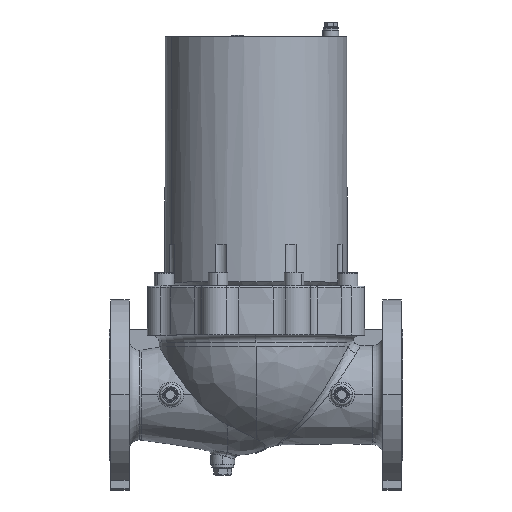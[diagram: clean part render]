
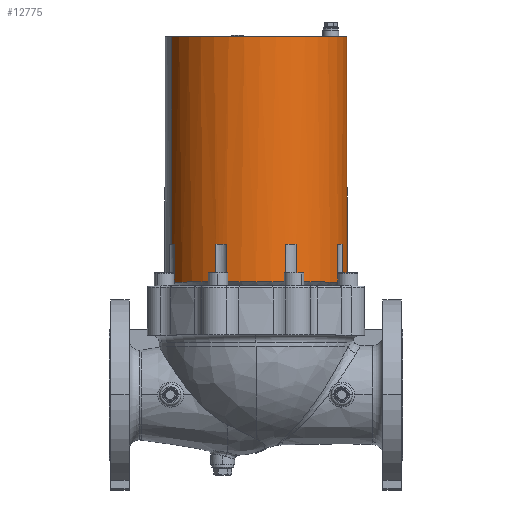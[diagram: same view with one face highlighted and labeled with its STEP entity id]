
A CAD part, top view. The second image highlights one B-rep face of the part: STEP entity #12775.
In plain terms, the highlighted cylindrical face has radius 109.55 mm (diameter 219.1 mm), a partial arc.
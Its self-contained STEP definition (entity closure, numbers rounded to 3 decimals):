
#1843=CARTESIAN_POINT('',(0.,184.285,
0.));
#1844=DIRECTION('',(0.,1.,0.));
#1845=DIRECTION('',(0.946,0.,-0.324));
#1846=AXIS2_PLACEMENT_3D('',#1843,#1844,#1845);
#1848=DIRECTION('',(0.,1.,0.));
#1849=VECTOR('',#1848,45.2);
#1850=CARTESIAN_POINT('',(103.653,139.085,-35.458));
#1851=LINE('',#1850,#1849);
#1852=CARTESIAN_POINT('',(0.,139.085,
0.));
#1853=DIRECTION('',(0.,-1.,0.));
#1854=DIRECTION('',(0.946,0.,-0.324));
#1855=AXIS2_PLACEMENT_3D('',#1852,#1853,#1854);
#1857=DIRECTION('',(0.,1.,0.));
#1858=VECTOR('',#1857,45.2);
#1859=CARTESIAN_POINT('',(103.653,139.085,35.458));
#1860=LINE('',#1859,#1858);
#1861=CARTESIAN_POINT('',(0.,184.285,
0.));
#1862=DIRECTION('',(0.,1.,0.));
#1863=DIRECTION('',(0.898,0.,0.44));
#1864=AXIS2_PLACEMENT_3D('',#1861,#1862,#1863);
#1866=DIRECTION('',(0.,1.,0.));
#1867=VECTOR('',#1866,45.2);
#1868=CARTESIAN_POINT('',(98.366,139.085,48.221));
#1869=LINE('',#1868,#1867);
#1870=CARTESIAN_POINT('',(0.,139.085,
0.));
#1871=DIRECTION('',(0.,-1.,0.));
#1872=DIRECTION('',(0.898,0.,0.44));
#1873=AXIS2_PLACEMENT_3D('',#1870,#1871,#1872);
#1875=DIRECTION('',(0.,1.,0.));
#1876=VECTOR('',#1875,45.2);
#1877=CARTESIAN_POINT('',(48.221,139.085,98.366));
#1878=LINE('',#1877,#1876);
#1879=CARTESIAN_POINT('',(0.,184.285,
0.));
#1880=DIRECTION('',(0.,1.,0.));
#1881=DIRECTION('',(0.324,0.,0.946));
#1882=AXIS2_PLACEMENT_3D('',#1879,#1880,#1881);
#1884=DIRECTION('',(0.,1.,0.));
#1885=VECTOR('',#1884,45.2);
#1886=CARTESIAN_POINT('',(35.458,139.085,103.653));
#1887=LINE('',#1886,#1885);
#1888=CARTESIAN_POINT('',(0.,139.085,
0.));
#1889=DIRECTION('',(0.,-1.,0.));
#1890=DIRECTION('',(0.324,0.,0.946));
#1891=AXIS2_PLACEMENT_3D('',#1888,#1889,#1890);
#1893=DIRECTION('',(0.,1.,0.));
#1894=VECTOR('',#1893,45.2);
#1895=CARTESIAN_POINT('',(-35.458,139.085,103.653));
#1896=LINE('',#1895,#1894);
#1897=CARTESIAN_POINT('',(0.,184.285,
0.));
#1898=DIRECTION('',(0.,1.,0.));
#1899=DIRECTION('',(-0.44,0.,0.898));
#1900=AXIS2_PLACEMENT_3D('',#1897,#1898,#1899);
#1902=DIRECTION('',(0.,1.,0.));
#1903=VECTOR('',#1902,45.2);
#1904=CARTESIAN_POINT('',(-48.221,139.085,98.366));
#1905=LINE('',#1904,#1903);
#1906=CARTESIAN_POINT('',(0.,139.085,
0.));
#1907=DIRECTION('',(0.,-1.,0.));
#1908=DIRECTION('',(-0.44,0.,0.898));
#1909=AXIS2_PLACEMENT_3D('',#1906,#1907,#1908);
#1911=DIRECTION('',(0.,1.,0.));
#1912=VECTOR('',#1911,45.2);
#1913=CARTESIAN_POINT('',(-98.366,139.085,48.221));
#1914=LINE('',#1913,#1912);
#1915=CARTESIAN_POINT('',(0.,184.285,
0.));
#1916=DIRECTION('',(0.,1.,0.));
#1917=DIRECTION('',(-0.924,0.,0.383));
#1918=AXIS2_PLACEMENT_3D('',#1915,#1916,#1917);
#1920=DIRECTION('',(0.,1.,0.));
#1921=VECTOR('',#1920,250.);
#1922=CARTESIAN_POINT('',(-101.211,184.285,41.923));
#1923=LINE('',#1922,#1921);
#1952=DIRECTION('',(0.,1.,0.));
#1953=VECTOR('',#1952,250.);
#1954=CARTESIAN_POINT('',(101.211,184.285,-41.923));
#1955=LINE('',#1954,#1953);
#2015=CARTESIAN_POINT('',(0.,434.285,
0.));
#2016=DIRECTION('',(0.,1.,0.));
#2017=DIRECTION('',(-0.924,0.,0.383));
#2018=AXIS2_PLACEMENT_3D('',#2015,#2016,#2017);
#9810=CARTESIAN_POINT('',(-101.211,434.285,41.923));
#9811=CARTESIAN_POINT('',(101.211,434.285,-41.923));
#9812=VERTEX_POINT('',#9810);
#9813=VERTEX_POINT('',#9811);
#9830=CARTESIAN_POINT('',(-101.211,184.285,41.923));
#9831=CARTESIAN_POINT('',(-98.366,184.285,48.221));
#9832=VERTEX_POINT('',#9830);
#9833=VERTEX_POINT('',#9831);
#9834=CARTESIAN_POINT('',(-98.366,139.085,48.221));
#9835=VERTEX_POINT('',#9834);
#9841=CARTESIAN_POINT('',(-48.221,184.285,98.366));
#9842=CARTESIAN_POINT('',(-35.458,184.285,103.653));
#9843=VERTEX_POINT('',#9841);
#9844=VERTEX_POINT('',#9842);
#9845=CARTESIAN_POINT('',(-48.221,139.085,98.366));
#9846=VERTEX_POINT('',#9845);
#9847=CARTESIAN_POINT('',(-35.458,139.085,103.653));
#9848=VERTEX_POINT('',#9847);
#9849=CARTESIAN_POINT('',(35.458,184.285,103.653));
#9850=CARTESIAN_POINT('',(48.221,184.285,98.366));
#9851=VERTEX_POINT('',#9849);
#9852=VERTEX_POINT('',#9850);
#9853=CARTESIAN_POINT('',(35.458,139.085,103.653));
#9854=VERTEX_POINT('',#9853);
#9855=CARTESIAN_POINT('',(48.221,139.085,98.366));
#9856=VERTEX_POINT('',#9855);
#9857=CARTESIAN_POINT('',(98.366,184.285,48.221));
#9858=CARTESIAN_POINT('',(103.653,184.285,35.458));
#9859=VERTEX_POINT('',#9857);
#9860=VERTEX_POINT('',#9858);
#9861=CARTESIAN_POINT('',(98.366,139.085,48.221));
#9862=VERTEX_POINT('',#9861);
#9863=CARTESIAN_POINT('',(103.653,139.085,35.458));
#9864=VERTEX_POINT('',#9863);
#9865=CARTESIAN_POINT('',(103.653,184.285,-35.458));
#9866=CARTESIAN_POINT('',(101.211,184.285,-41.923));
#9867=VERTEX_POINT('',#9865);
#9868=VERTEX_POINT('',#9866);
#9869=CARTESIAN_POINT('',(103.653,139.085,-35.458));
#9870=VERTEX_POINT('',#9869);
#12733=CARTESIAN_POINT('',(0.,134.285,
0.));
#12734=DIRECTION('',(0.,1.,0.));
#12735=DIRECTION('',(-0.924,0.,0.383));
#12736=AXIS2_PLACEMENT_3D('',#12733,#12734,#12735);
#12737=CYLINDRICAL_SURFACE('',#12736,109.55);
#12739=ORIENTED_EDGE('',*,*,#12738,.F.);
#12740=ORIENTED_EDGE('',*,*,#12722,.F.);
#12741=ORIENTED_EDGE('',*,*,#12679,.T.);
#12743=ORIENTED_EDGE('',*,*,#12742,.T.);
#12745=ORIENTED_EDGE('',*,*,#12744,.F.);
#12747=ORIENTED_EDGE('',*,*,#12746,.F.);
#12748=ORIENTED_EDGE('',*,*,#12675,.T.);
#12750=ORIENTED_EDGE('',*,*,#12749,.T.);
#12752=ORIENTED_EDGE('',*,*,#12751,.F.);
#12754=ORIENTED_EDGE('',*,*,#12753,.F.);
#12755=ORIENTED_EDGE('',*,*,#12671,.T.);
#12757=ORIENTED_EDGE('',*,*,#12756,.T.);
#12759=ORIENTED_EDGE('',*,*,#12758,.F.);
#12761=ORIENTED_EDGE('',*,*,#12760,.F.);
#12762=ORIENTED_EDGE('',*,*,#12667,.T.);
#12764=ORIENTED_EDGE('',*,*,#12763,.T.);
#12766=ORIENTED_EDGE('',*,*,#12765,.F.);
#12768=ORIENTED_EDGE('',*,*,#12767,.T.);
#12770=ORIENTED_EDGE('',*,*,#12769,.T.);
#12772=ORIENTED_EDGE('',*,*,#12771,.F.);
#12773=EDGE_LOOP('',(#12739,#12740,#12741,#12743,#12745,#12747,#12748,#12750,
#12752,#12754,#12755,#12757,#12759,#12761,#12762,#12764,#12766,#12768,#12770,
#12772));
#12774=FACE_OUTER_BOUND('',#12773,.F.);
#12775=ADVANCED_FACE('',(#12774),#12737,.T.);
#1847=CIRCLE('',#1846,109.55);
#1856=CIRCLE('',#1855,109.55);
#1865=CIRCLE('',#1864,109.55);
#1874=CIRCLE('',#1873,109.55);
#1883=CIRCLE('',#1882,109.55);
#1892=CIRCLE('',#1891,109.55);
#1901=CIRCLE('',#1900,109.55);
#1910=CIRCLE('',#1909,109.55);
#1919=CIRCLE('',#1918,109.55);
#2019=CIRCLE('',#2018,109.55);
#12667=EDGE_CURVE('',#9846,#9835,#1910,.T.);
#12671=EDGE_CURVE('',#9854,#9848,#1892,.T.);
#12675=EDGE_CURVE('',#9862,#9856,#1874,.T.);
#12679=EDGE_CURVE('',#9870,#9864,#1856,.T.);
#12722=EDGE_CURVE('',#9870,#9867,#1851,.T.);
#12738=EDGE_CURVE('',#9867,#9868,#1847,.T.);
#12742=EDGE_CURVE('',#9864,#9860,#1860,.T.);
#12744=EDGE_CURVE('',#9859,#9860,#1865,.T.);
#12746=EDGE_CURVE('',#9862,#9859,#1869,.T.);
#12749=EDGE_CURVE('',#9856,#9852,#1878,.T.);
#12751=EDGE_CURVE('',#9851,#9852,#1883,.T.);
#12753=EDGE_CURVE('',#9854,#9851,#1887,.T.);
#12756=EDGE_CURVE('',#9848,#9844,#1896,.T.);
#12758=EDGE_CURVE('',#9843,#9844,#1901,.T.);
#12760=EDGE_CURVE('',#9846,#9843,#1905,.T.);
#12763=EDGE_CURVE('',#9835,#9833,#1914,.T.);
#12765=EDGE_CURVE('',#9832,#9833,#1919,.T.);
#12767=EDGE_CURVE('',#9832,#9812,#1923,.T.);
#12769=EDGE_CURVE('',#9812,#9813,#2019,.T.);
#12771=EDGE_CURVE('',#9868,#9813,#1955,.T.);
